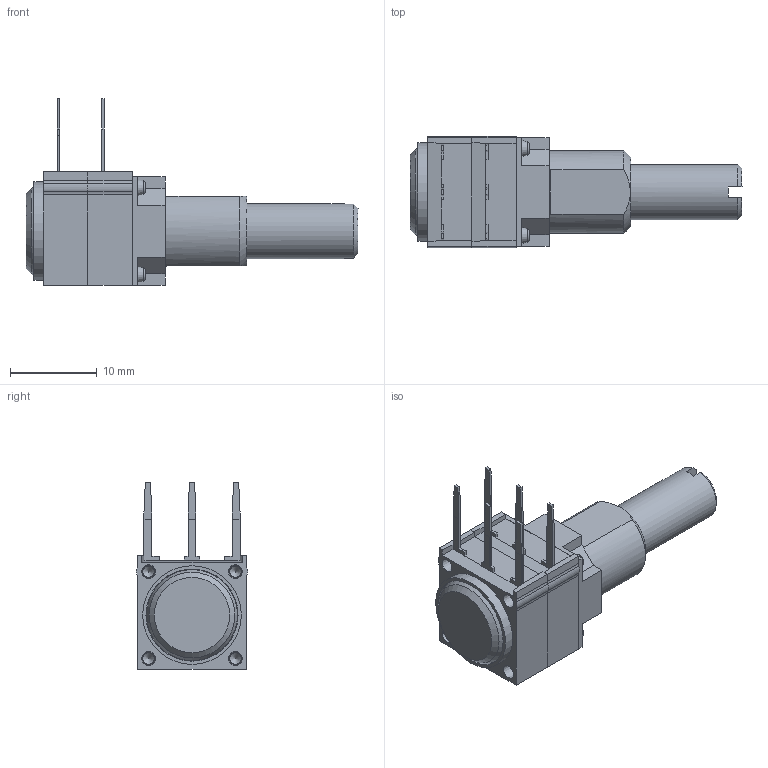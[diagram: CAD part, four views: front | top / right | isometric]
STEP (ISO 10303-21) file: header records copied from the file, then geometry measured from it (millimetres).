
FILE_DESCRIPTION(/* description */ (''),/* implementation_level */ '2;1');
FILE_NAME(/* name */ 'P11A2F0GJSX00',/* time_stamp */ '2020-09-16T08:37:59+02:00',/* author */ (''),/* organization */ ('VISHAY '),/* preprocessor_version */ 'ST-DEVELOPER v16.7',/* originating_system */ 'DEX',/* authorisation */ $);
FILE_SCHEMA (('AUTOMOTIVE_DESIGN {1 0 10303 214 3 1 1}'));
Length unit declared in the file: millimetre
Products named in the file (30): P11S2F0GJSX00; P11S2F0GJSX00_0; P11S2F0GJSX00_1; P11S2F0GJSX00_2; P11S2F0GJSX00_3; P11S2F0GJSX00_4; P11S2F0GJSX00_5; P11S2F0GJSX00_6; P11S2F0GJSX00_7; P11S2F0GJSX00_8; P11S2F0GJSX00_9; P11S2F0GJSX00_10; P11S2F0GJSX00_11; P11S2F0GJSX00_12; P11S2F0GJSX00_13; P11S2F0GJSX00_14; P11S2F0GJSX00_15; P11S2F0GJSX00_16; P11S2F0GJSX00_17; P11S2F0GJSX00_18; P11S2F0GJSX00_19; P11S2F0GJSX00_20; P11S2F0GJSX00_21; P11S2F0GJSX00_22; P11S2F0GJSX00_23
Assembly tree (29 placements, depth 4):
  P11S2F0GJSX00
    P11S2F0GJSX00
      P11S2F0GJSX00_0
        P11S2F0GJSX00
        P11S2F0GJSX00_0
        P11S2F0GJSX00_1
      P11S2F0GJSX00_2
      P11S2F0GJSX00_3
      P11S2F0GJSX00_4
      P11S2F0GJSX00_5
      P11S2F0GJSX00_6
    P11S2F0GJSX00_1
      P11S2F0GJSX00_2
        P11S2F0GJSX00_7
        P11S2F0GJSX00_8
        P11S2F0GJSX00_9
      P11S2F0GJSX00_10
      P11S2F0GJSX00_11
      P11S2F0GJSX00_12
      P11S2F0GJSX00_13
      P11S2F0GJSX00_14
      P11S2F0GJSX00_15
      P11S2F0GJSX00_16
      P11S2F0GJSX00_17
      P11S2F0GJSX00_18
    P11S2F0GJSX00_19
    P11S2F0GJSX00_20
    P11S2F0GJSX00_21
    P11S2F0GJSX00_22
    P11S2F0GJSX00_23
Bounding box: 38.21 x 12.79 x 21.5 mm (x, y, z)
Volume: 957.7 mm3; surface area: 3839.6 mm2
Topology: 23 solids, 40 shells, 715 faces, 1939 edges, 1306 vertices
Faces by surface type: plane 413, cylinder 199, cone 92, torus 9, bspline 2
Full cylindrical faces by diameter (mm): 0.996 x4, 1.3 x12, 1.5 x18, 1.55 x4, 3.97 x1, 4.1 x1, 5.25 x1, 5.9 x1, 6.35 x2, 7.37 x1, 7.42 x1, 7.44 x1, 8.4 x1, 9.65 x1, 10.081 x3, 10.6 x2, 11.35 x2
Entity records: 23361 total; most frequent: CARTESIAN_POINT 4606, DIRECTION 3646, ORIENTED_EDGE 3453, EDGE_CURVE 1805, AXIS2_PLACEMENT_3D 1309, VERTEX_POINT 1282, LINE 1028, VECTOR 1028
